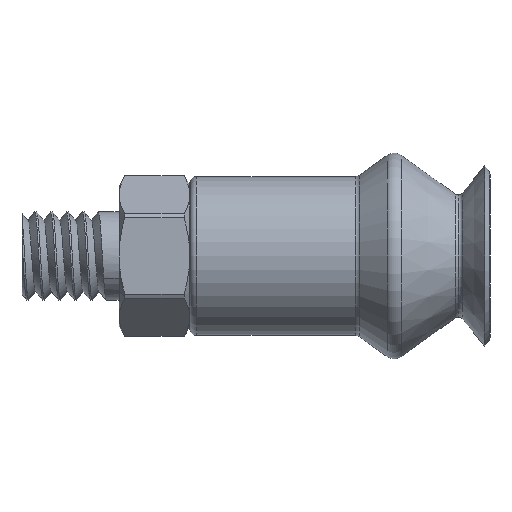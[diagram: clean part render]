
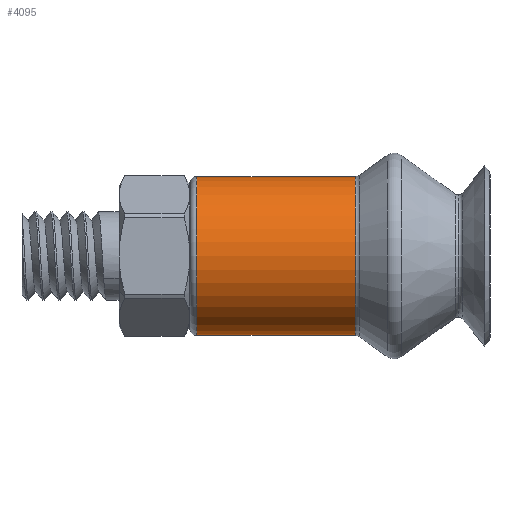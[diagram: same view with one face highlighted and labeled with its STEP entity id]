
A CAD part, left-side view. The second image highlights one B-rep face of the part: STEP entity #4095.
In plain terms, the highlighted cylindrical face has radius 4.5 mm (diameter 9 mm), a partial arc.
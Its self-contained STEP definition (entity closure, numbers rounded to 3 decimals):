
#17 = CARTESIAN_POINT ( 'NONE',  ( 0., 0., -4.5 ) ) ;
#181 = FACE_OUTER_BOUND ( 'NONE', #4867, .T. ) ;
#232 = DIRECTION ( 'NONE',  ( 0., 0., 1. ) ) ;
#238 = ORIENTED_EDGE ( 'NONE', *, *, #3162, .T. ) ;
#259 = EDGE_CURVE ( 'NONE', #1274, #2666, #1361, .T. ) ;
#607 = LINE ( 'NONE', #3397, #3589 ) ;
#695 = VERTEX_POINT ( 'NONE', #1831 ) ;
#723 = AXIS2_PLACEMENT_3D ( 'NONE', #4641, #2706, #4978 ) ;
#973 = DIRECTION ( 'NONE',  ( 0., 1., 0. ) ) ;
#1274 = VERTEX_POINT ( 'NONE', #4291 ) ;
#1361 = CIRCLE ( 'NONE', #2507, 4.5 ) ;
#1475 = DIRECTION ( 'NONE',  ( 0., 1., 0. ) ) ;
#1831 = CARTESIAN_POINT ( 'NONE',  ( 0., -9.373, 4.5 ) ) ;
#2094 = DIRECTION ( 'NONE',  ( 0., 0., 1. ) ) ;
#2174 = ORIENTED_EDGE ( 'NONE', *, *, #2445, .F. ) ;
#2193 = VECTOR ( 'NONE', #1475, 1000. ) ;
#2445 = EDGE_CURVE ( 'NONE', #4535, #1274, #4668, .T. ) ;
#2507 = AXIS2_PLACEMENT_3D ( 'NONE', #3434, #2969, #232 ) ;
#2666 = VERTEX_POINT ( 'NONE', #4505 ) ;
#2688 = CIRCLE ( 'NONE', #723, 4.5 ) ;
#2706 = DIRECTION ( 'NONE',  ( 0., 1., 0. ) ) ;
#2846 = ORIENTED_EDGE ( 'NONE', *, *, #3286, .T. ) ;
#2969 = DIRECTION ( 'NONE',  ( 0., 1., 0. ) ) ;
#3162 = EDGE_CURVE ( 'NONE', #695, #2666, #607, .T. ) ;
#3286 = EDGE_CURVE ( 'NONE', #4535, #695, #2688, .T. ) ;
#3397 = CARTESIAN_POINT ( 'NONE',  ( 0., 0., 4.5 ) ) ;
#3434 = CARTESIAN_POINT ( 'NONE',  ( 0., -0.4, 0. ) ) ;
#3589 = VECTOR ( 'NONE', #3636, 1000. ) ;
#3636 = DIRECTION ( 'NONE',  ( 0., 1., 0. ) ) ;
#3670 = CYLINDRICAL_SURFACE ( 'NONE', #4802, 4.5 ) ;
#4095 = ADVANCED_FACE ( 'NONE', ( #181 ), #3670, .T. ) ;
#4291 = CARTESIAN_POINT ( 'NONE',  ( 0., -0.4, -4.5 ) ) ;
#4422 = ORIENTED_EDGE ( 'NONE', *, *, #259, .F. ) ;
#4505 = CARTESIAN_POINT ( 'NONE',  ( 0., -0.4, 4.5 ) ) ;
#4535 = VERTEX_POINT ( 'NONE', #4819 ) ;
#4641 = CARTESIAN_POINT ( 'NONE',  ( 0., -9.373, 0. ) ) ;
#4668 = LINE ( 'NONE', #17, #2193 ) ;
#4802 = AXIS2_PLACEMENT_3D ( 'NONE', #4832, #973, #2094 ) ;
#4819 = CARTESIAN_POINT ( 'NONE',  ( 0., -9.373, -4.5 ) ) ;
#4832 = CARTESIAN_POINT ( 'NONE',  ( 0., 0., 0. ) ) ;
#4867 = EDGE_LOOP ( 'NONE', ( #2174, #2846, #238, #4422 ) ) ;
#4978 = DIRECTION ( 'NONE',  ( 0., 0., 1. ) ) ;
